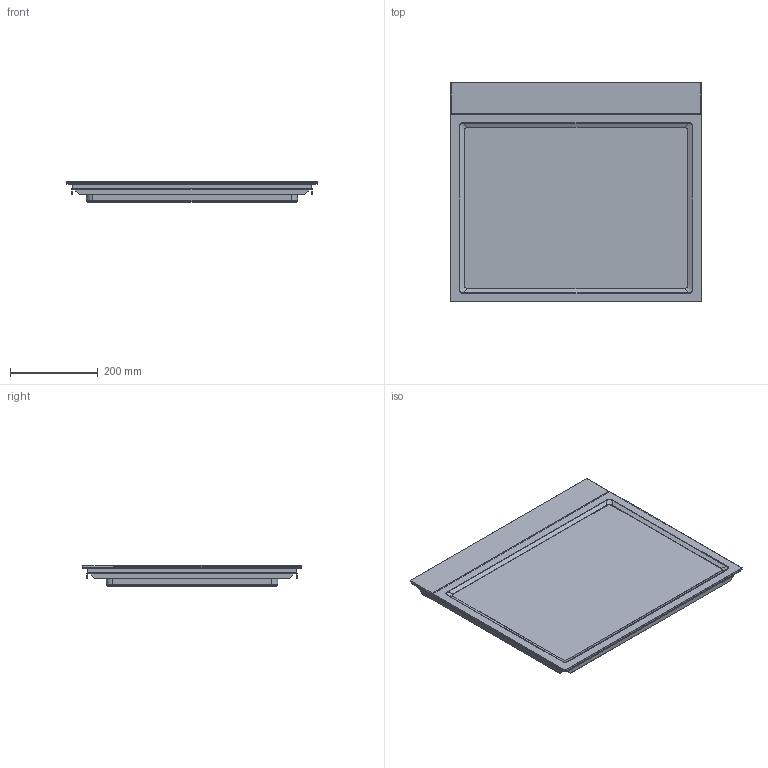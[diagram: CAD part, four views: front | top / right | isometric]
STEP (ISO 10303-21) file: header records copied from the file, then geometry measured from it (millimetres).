
FILE_DESCRIPTION(('CATIA V6 STEP','CAx-IF Rec.Pracs.--- Model Styling and Organization---1.2---2011-12-15'),'2;1');
FILE_NAME('P:\CATIA-UserDaten\3D Planungsdaten\GK\3D GK-Teppan Yaki Sortiment\307700205-A.stp','2016-11-03T13:06:08+00:00',('none'),('none'),'CATIA Unofficial Packaging Version','DASSAULT SYSTEMES CATIA V6 STEP AP214','none');
FILE_SCHEMA(('AUTOMOTIVE_DESIGN { 1 0 10303 214 1 1 1 1 }'));
Length unit declared in the file: millimetre
Products named in the file (1): 1030351-00
Bounding box: 571 x 501 x 46.85 mm (x, y, z)
Volume: 1346676.8 mm3; surface area: 1743993.1 mm2
Topology: 5 solids, 5 shells, 170 faces, 417 edges, 262 vertices
Faces by surface type: plane 70, cylinder 68, bspline 16, cone 8, torus 4, revolution 4
Entity records: 6932 total; most frequent: CARTESIAN_POINT 3158, ORIENTED_EDGE 834, DIRECTION 615, EDGE_CURVE 417, VERTEX_POINT 262, AXIS2_PLACEMENT_3D 234, VECTOR 231, LINE 231
